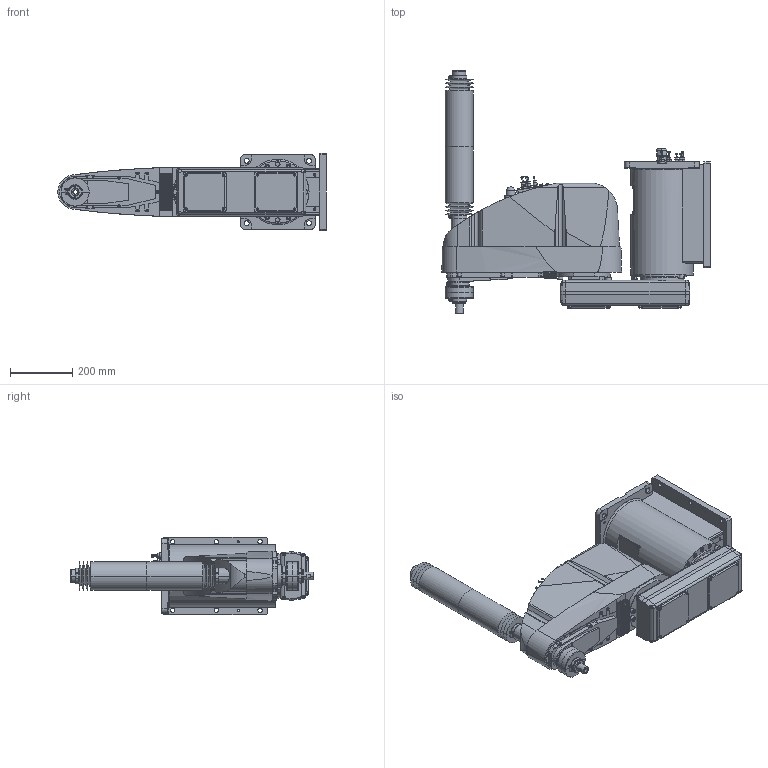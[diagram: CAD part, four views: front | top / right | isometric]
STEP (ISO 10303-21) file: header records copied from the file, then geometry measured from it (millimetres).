
FILE_DESCRIPTION( ( '' ), '1' );
FILE_NAME( '//expscmdclustefs.cadenas.external/client_exchange/iodir/jobs/output/wkb51513281_no0/STEP/G10_654DW_2_14b.stp', '2012-11-22T15:58:14', ( '' ), ( '' ), ' ', ' ', ' ' );
FILE_SCHEMA( ( 'automotive_design' ) );
Length unit declared in the file: millimetre
Products named in the file (8): 1; 2; 3; 4; 5; 6; 7; 8
Bounding box: 860.5 x 777.5 x 250 mm (x, y, z)
Volume: 42506723.2 mm3; surface area: 1807681.2 mm2
Topology: 8 solids, 8 shells, 2290 faces, 5553 edges, 3572 vertices
Faces by surface type: plane 1183, cylinder 777, cone 298, torus 31, sphere 1
Entity records: 132854 total; most frequent: CARTESIAN_POINT 13672, DIRECTION 11905, STYLED_ITEM 11407, PRESENTATION_STYLE_ASSIGNMENT 11407, COLOUR_RGB 11407, ORIENTED_EDGE 11074, EDGE_CURVE 5537, CURVE_STYLE 5537
